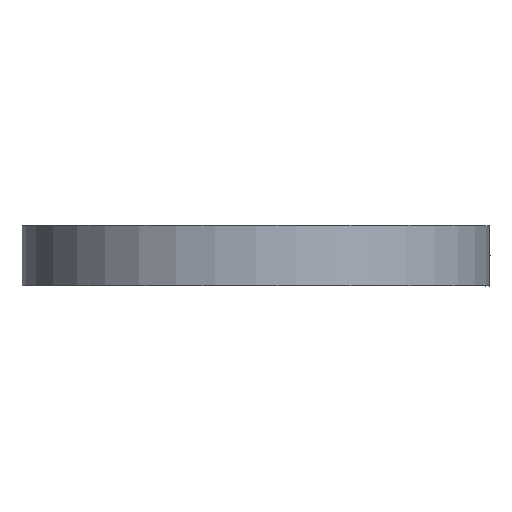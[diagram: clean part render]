
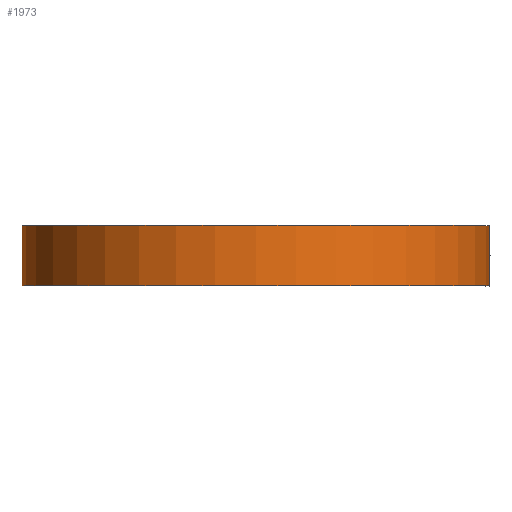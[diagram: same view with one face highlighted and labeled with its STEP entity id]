
A CAD part, top view. The second image highlights one B-rep face of the part: STEP entity #1973.
In plain terms, the highlighted cylindrical face has radius 31 mm (diameter 62 mm), a partial arc.
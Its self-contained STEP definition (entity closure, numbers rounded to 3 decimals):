
#1916=CARTESIAN_POINT('',(0.,-6.2,
-14.4));
#1917=DIRECTION('',(0.,-1.,0.));
#1918=DIRECTION('',(1.,0.,0.));
#1919=AXIS2_PLACEMENT_3D('',#1916,#1917,#1918);
#1921=DIRECTION('',(0.,1.,0.));
#1922=VECTOR('',#1921,8.);
#1923=CARTESIAN_POINT('',(-31.,-6.2,
-14.4));
#1924=LINE('',#1923,#1922);
#1925=CARTESIAN_POINT('',(0.,1.8,
-14.4));
#1926=DIRECTION('',(0.,1.,0.));
#1927=DIRECTION('',(-1.,0.,0.));
#1928=AXIS2_PLACEMENT_3D('',#1925,#1926,#1927);
#1930=DIRECTION('',(0.,1.,0.));
#1931=VECTOR('',#1930,8.);
#1932=CARTESIAN_POINT('',(31.,-6.2,
-14.4));
#1933=LINE('',#1932,#1931);
#1946=CARTESIAN_POINT('',(31.,-6.2,
-14.4));
#1947=CARTESIAN_POINT('',(-31.,-6.2,
-14.4));
#1948=VERTEX_POINT('',#1946);
#1949=VERTEX_POINT('',#1947);
#1950=CARTESIAN_POINT('',(31.,1.8,-14.4));
#1951=CARTESIAN_POINT('',(-31.,1.8,
-14.4));
#1952=VERTEX_POINT('',#1950);
#1953=VERTEX_POINT('',#1951);
#1958=CARTESIAN_POINT('',(0.,-2.2,
-14.4));
#1959=DIRECTION('',(0.,-1.,0.));
#1960=DIRECTION('',(-1.,0.,0.));
#1961=AXIS2_PLACEMENT_3D('',#1958,#1959,#1960);
#1962=CYLINDRICAL_SURFACE('',#1961,31.);
#1964=ORIENTED_EDGE('',*,*,#1963,.T.);
#1966=ORIENTED_EDGE('',*,*,#1965,.T.);
#1968=ORIENTED_EDGE('',*,*,#1967,.T.);
#1970=ORIENTED_EDGE('',*,*,#1969,.F.);
#1971=EDGE_LOOP('',(#1964,#1966,#1968,#1970));
#1972=FACE_OUTER_BOUND('',#1971,.F.);
#1973=ADVANCED_FACE('',(#1972),#1962,.T.);
#1920=CIRCLE('',#1919,31.);
#1929=CIRCLE('',#1928,31.);
#1963=EDGE_CURVE('',#1948,#1949,#1920,.T.);
#1965=EDGE_CURVE('',#1949,#1953,#1924,.T.);
#1967=EDGE_CURVE('',#1953,#1952,#1929,.T.);
#1969=EDGE_CURVE('',#1948,#1952,#1933,.T.);
